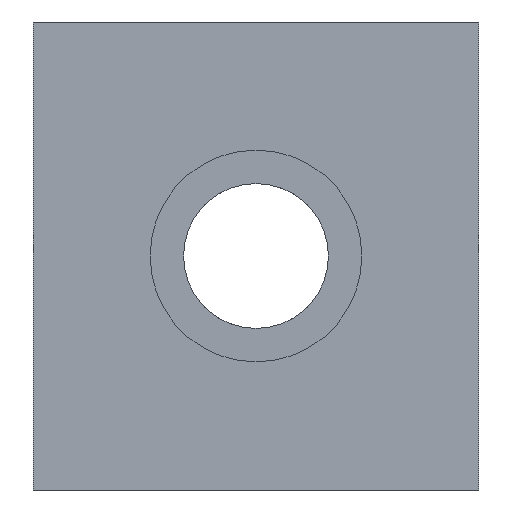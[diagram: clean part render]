
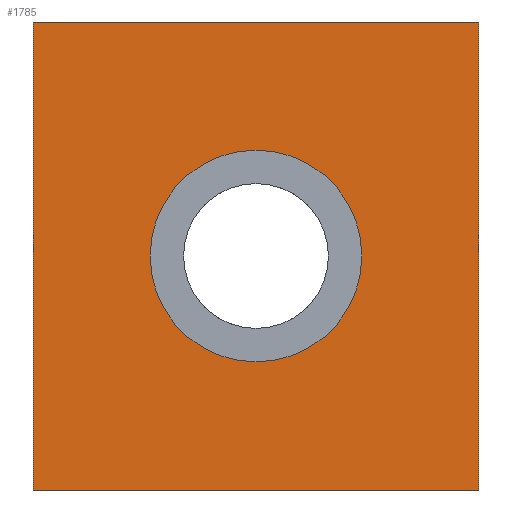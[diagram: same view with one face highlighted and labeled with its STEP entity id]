
A CAD part, front view. The second image highlights one B-rep face of the part: STEP entity #1785.
In plain terms, the highlighted planar face has unit normal (0, -1, 0).
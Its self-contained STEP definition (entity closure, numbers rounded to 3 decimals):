
#1=DIRECTION('',(1.,0.,0.));
#2=VECTOR('',#1,40.);
#3=CARTESIAN_POINT('',(0.,0.,0.));
#4=LINE('',#3,#2);
#37=DIRECTION('',(0.,0.,1.));
#38=VECTOR('',#37,42.);
#39=CARTESIAN_POINT('',(0.,0.,0.));
#40=LINE('',#39,#38);
#41=CARTESIAN_POINT('',(20.,0.,21.));
#42=DIRECTION('',(0.,-1.,0.));
#43=DIRECTION('',(-1.,0.,0.));
#44=AXIS2_PLACEMENT_3D('',#41,#42,#43);
#46=CARTESIAN_POINT('',(20.,0.,21.));
#47=DIRECTION('',(0.,-1.,0.));
#48=DIRECTION('',(1.,0.,0.));
#49=AXIS2_PLACEMENT_3D('',#46,#47,#48);
#495=DIRECTION('',(0.,0.,1.));
#496=VECTOR('',#495,42.);
#497=CARTESIAN_POINT('',(40.,0.,0.));
#498=LINE('',#497,#496);
#1169=DIRECTION('',(1.,0.,0.));
#1170=VECTOR('',#1169,40.);
#1171=CARTESIAN_POINT('',(0.,0.,42.));
#1172=LINE('',#1171,#1170);
#1335=CARTESIAN_POINT('',(0.,0.,0.));
#1336=CARTESIAN_POINT('',(40.,0.,0.));
#1337=VERTEX_POINT('',#1335);
#1338=VERTEX_POINT('',#1336);
#1343=CARTESIAN_POINT('',(0.,0.,42.));
#1344=CARTESIAN_POINT('',(40.,0.,42.));
#1345=VERTEX_POINT('',#1343);
#1346=VERTEX_POINT('',#1344);
#1369=CARTESIAN_POINT('',(10.5,0.,21.));
#1370=CARTESIAN_POINT('',(29.5,0.,21.));
#1371=VERTEX_POINT('',#1369);
#1372=VERTEX_POINT('',#1370);
#1765=CARTESIAN_POINT('',(0.,0.,0.));
#1766=DIRECTION('',(0.,-1.,0.));
#1767=DIRECTION('',(1.,0.,0.));
#1768=AXIS2_PLACEMENT_3D('',#1765,#1766,#1767);
#1769=PLANE('',#1768);
#1770=ORIENTED_EDGE('',*,*,#1742,.F.);
#1772=ORIENTED_EDGE('',*,*,#1771,.T.);
#1774=ORIENTED_EDGE('',*,*,#1773,.T.);
#1776=ORIENTED_EDGE('',*,*,#1775,.F.);
#1777=EDGE_LOOP('',(#1770,#1772,#1774,#1776));
#1778=FACE_OUTER_BOUND('',#1777,.F.);
#1780=ORIENTED_EDGE('',*,*,#1779,.T.);
#1782=ORIENTED_EDGE('',*,*,#1781,.T.);
#1783=EDGE_LOOP('',(#1780,#1782));
#1784=FACE_BOUND('',#1783,.F.);
#1785=ADVANCED_FACE('',(#1778,#1784),#1769,.T.);
#45=CIRCLE('',#44,9.5);
#50=CIRCLE('',#49,9.5);
#1742=EDGE_CURVE('',#1337,#1338,#4,.T.);
#1771=EDGE_CURVE('',#1337,#1345,#40,.T.);
#1773=EDGE_CURVE('',#1345,#1346,#1172,.T.);
#1775=EDGE_CURVE('',#1338,#1346,#498,.T.);
#1779=EDGE_CURVE('',#1371,#1372,#45,.T.);
#1781=EDGE_CURVE('',#1372,#1371,#50,.T.);
